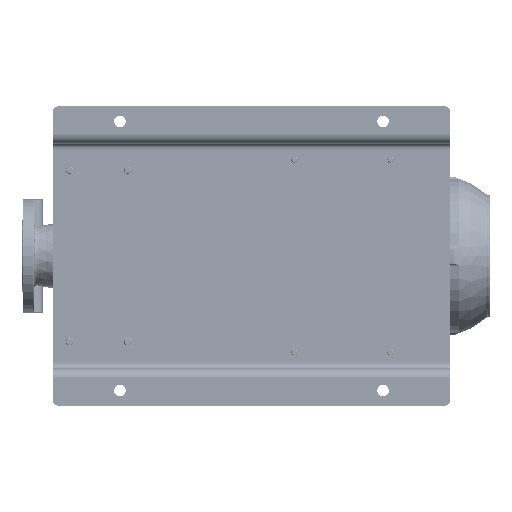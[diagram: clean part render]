
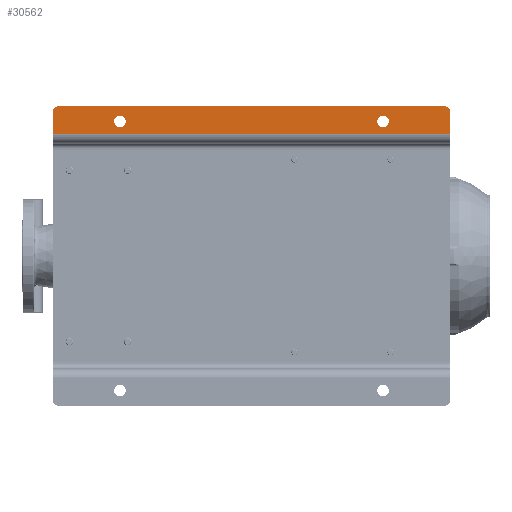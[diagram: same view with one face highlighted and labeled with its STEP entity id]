
A CAD part, front view. The second image highlights one B-rep face of the part: STEP entity #30562.
In plain terms, the highlighted planar face has unit normal (0, -1, 0).
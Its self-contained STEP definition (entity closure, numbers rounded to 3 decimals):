
#506 = ORIENTED_EDGE ( 'NONE', *, *, #38967, .T. ) ;
#6165 = EDGE_CURVE ( 'NONE', #204164, #122748, #70095, .T. ) ;
#7093 = DIRECTION ( 'NONE',  ( 0., 1., 0. ) ) ;
#10180 = AXIS2_PLACEMENT_3D ( 'NONE', #132617, #231406, #174652 ) ;
#15003 = VECTOR ( 'NONE', #180080, 1000. ) ;
#16679 = CARTESIAN_POINT ( 'NONE',  ( 490., 0., -640. ) ) ;
#19729 = DIRECTION ( 'NONE',  ( 0., 0., -1. ) ) ;
#20245 = AXIS2_PLACEMENT_3D ( 'NONE', #87733, #178579, #88915 ) ;
#22218 = ORIENTED_EDGE ( 'NONE', *, *, #85745, .T. ) ;
#29569 = VERTEX_POINT ( 'NONE', #100629 ) ;
#30562 = ADVANCED_FACE ( 'NONE', ( #193904, #82528, #67952 ), #100663, .T. ) ;
#38967 = EDGE_CURVE ( 'NONE', #60700, #29569, #221451, .T. ) ;
#42426 = DIRECTION ( 'NONE',  ( 0., 0., 1. ) ) ;
#47777 = DIRECTION ( 'NONE',  ( 0., 0., -1. ) ) ;
#50161 = CARTESIAN_POINT ( 'NONE',  ( 455.5, 0., -110. ) ) ;
#50769 = LINE ( 'NONE', #124439, #194973 ) ;
#56937 = AXIS2_PLACEMENT_3D ( 'NONE', #198933, #175966, #47777 ) ;
#57282 = AXIS2_PLACEMENT_3D ( 'NONE', #210820, #138112, #63232 ) ;
#60700 = VERTEX_POINT ( 'NONE', #210750 ) ;
#63209 = VECTOR ( 'NONE', #220116, 1000. ) ;
#63232 = DIRECTION ( 'NONE',  ( 0., 0., -1. ) ) ;
#67952 = FACE_OUTER_BOUND ( 'NONE', #174620, .T. ) ;
#68582 = EDGE_LOOP ( 'NONE', ( #157415, #506 ) ) ;
#70095 = LINE ( 'NONE', #163238, #63209 ) ;
#77922 = EDGE_LOOP ( 'NONE', ( #127763, #22218 ) ) ;
#78377 = AXIS2_PLACEMENT_3D ( 'NONE', #189778, #7093, #227250 ) ;
#82528 = FACE_BOUND ( 'NONE', #68582, .T. ) ;
#84904 = VERTEX_POINT ( 'NONE', #149078 ) ;
#85745 = EDGE_CURVE ( 'NONE', #192956, #91423, #230737, .T. ) ;
#87131 = ORIENTED_EDGE ( 'NONE', *, *, #131058, .T. ) ;
#87733 = CARTESIAN_POINT ( 'NONE',  ( 480., 0., -640. ) ) ;
#88915 = DIRECTION ( 'NONE',  ( 0., 0., -1. ) ) ;
#90751 = EDGE_CURVE ( 'NONE', #96608, #84904, #213480, .T. ) ;
#91423 = VERTEX_POINT ( 'NONE', #50161 ) ;
#91575 = LINE ( 'NONE', #123094, #15003 ) ;
#96608 = VERTEX_POINT ( 'NONE', #110083 ) ;
#100629 = CARTESIAN_POINT ( 'NONE',  ( 455.5, 0., -540. ) ) ;
#100663 = PLANE ( 'NONE',  #57282 ) ;
#110083 = CARTESIAN_POINT ( 'NONE',  ( 490., 0., -10. ) ) ;
#118417 = DIRECTION ( 'NONE',  ( 0., 1., 0. ) ) ;
#122748 = VERTEX_POINT ( 'NONE', #222798 ) ;
#123094 = CARTESIAN_POINT ( 'NONE',  ( 445., 0., -650. ) ) ;
#124439 = CARTESIAN_POINT ( 'NONE',  ( 429., 0., 0. ) ) ;
#124509 = CIRCLE ( 'NONE', #20245, 10. ) ;
#127034 = ORIENTED_EDGE ( 'NONE', *, *, #200681, .T. ) ;
#127763 = ORIENTED_EDGE ( 'NONE', *, *, #156785, .T. ) ;
#131058 = EDGE_CURVE ( 'NONE', #210336, #96608, #207000, .T. ) ;
#132617 = CARTESIAN_POINT ( 'NONE',  ( 465., 0., -110. ) ) ;
#138112 = DIRECTION ( 'NONE',  ( 0., -1., 0. ) ) ;
#141932 = EDGE_CURVE ( 'NONE', #142772, #84904, #50769, .T. ) ;
#142772 = VERTEX_POINT ( 'NONE', #233946 ) ;
#147404 = ORIENTED_EDGE ( 'NONE', *, *, #90751, .T. ) ;
#149078 = CARTESIAN_POINT ( 'NONE',  ( 480., 0., 0. ) ) ;
#149143 = CIRCLE ( 'NONE', #10180, 9.5 ) ;
#152303 = DIRECTION ( 'NONE',  ( 0., 0., -1. ) ) ;
#155248 = CARTESIAN_POINT ( 'NONE',  ( 445., 0., -650. ) ) ;
#156785 = EDGE_CURVE ( 'NONE', #91423, #192956, #149143, .T. ) ;
#157201 = ORIENTED_EDGE ( 'NONE', *, *, #141932, .F. ) ;
#157415 = ORIENTED_EDGE ( 'NONE', *, *, #196956, .T. ) ;
#163238 = CARTESIAN_POINT ( 'NONE',  ( 429., 0., -650. ) ) ;
#174620 = EDGE_LOOP ( 'NONE', ( #157201, #127034, #222515, #179971, #87131, #147404 ) ) ;
#174652 = DIRECTION ( 'NONE',  ( 0., 0., -1. ) ) ;
#175966 = DIRECTION ( 'NONE',  ( 0., 1., 0. ) ) ;
#178579 = DIRECTION ( 'NONE',  ( 0., -1., 0. ) ) ;
#179971 = ORIENTED_EDGE ( 'NONE', *, *, #193812, .T. ) ;
#180080 = DIRECTION ( 'NONE',  ( 0., 0., -1. ) ) ;
#181959 = CARTESIAN_POINT ( 'NONE',  ( 480., 0., -10. ) ) ;
#183756 = VECTOR ( 'NONE', #42426, 1000. ) ;
#186487 = CARTESIAN_POINT ( 'NONE',  ( 490., 0., -650. ) ) ;
#189778 = CARTESIAN_POINT ( 'NONE',  ( 465., 0., -540. ) ) ;
#192956 = VERTEX_POINT ( 'NONE', #194911 ) ;
#193812 = EDGE_CURVE ( 'NONE', #122748, #210336, #124509, .T. ) ;
#193904 = FACE_BOUND ( 'NONE', #77922, .T. ) ;
#194911 = CARTESIAN_POINT ( 'NONE',  ( 474.5, 0., -110. ) ) ;
#194973 = VECTOR ( 'NONE', #211657, 1000. ) ;
#196956 = EDGE_CURVE ( 'NONE', #29569, #60700, #218498, .T. ) ;
#198933 = CARTESIAN_POINT ( 'NONE',  ( 465., 0., -110. ) ) ;
#200681 = EDGE_CURVE ( 'NONE', #142772, #204164, #91575, .T. ) ;
#204164 = VERTEX_POINT ( 'NONE', #155248 ) ;
#205703 = CARTESIAN_POINT ( 'NONE',  ( 465., 0., -540. ) ) ;
#206764 = AXIS2_PLACEMENT_3D ( 'NONE', #205703, #118417, #152303 ) ;
#207000 = LINE ( 'NONE', #186487, #183756 ) ;
#210336 = VERTEX_POINT ( 'NONE', #16679 ) ;
#210750 = CARTESIAN_POINT ( 'NONE',  ( 474.5, 0., -540. ) ) ;
#210820 = CARTESIAN_POINT ( 'NONE',  ( 429., 0., -650. ) ) ;
#211657 = DIRECTION ( 'NONE',  ( 1., 0., 0. ) ) ;
#213480 = CIRCLE ( 'NONE', #236642, 10. ) ;
#218498 = CIRCLE ( 'NONE', #206764, 9.5 ) ;
#220116 = DIRECTION ( 'NONE',  ( 1., 0., 0. ) ) ;
#221451 = CIRCLE ( 'NONE', #78377, 9.5 ) ;
#222515 = ORIENTED_EDGE ( 'NONE', *, *, #6165, .T. ) ;
#222798 = CARTESIAN_POINT ( 'NONE',  ( 480., 0., -650. ) ) ;
#227250 = DIRECTION ( 'NONE',  ( 0., 0., -1. ) ) ;
#230737 = CIRCLE ( 'NONE', #56937, 9.5 ) ;
#231406 = DIRECTION ( 'NONE',  ( 0., 1., 0. ) ) ;
#233946 = CARTESIAN_POINT ( 'NONE',  ( 445., 0., 0. ) ) ;
#236346 = DIRECTION ( 'NONE',  ( 0., -1., 0. ) ) ;
#236642 = AXIS2_PLACEMENT_3D ( 'NONE', #181959, #236346, #19729 ) ;
